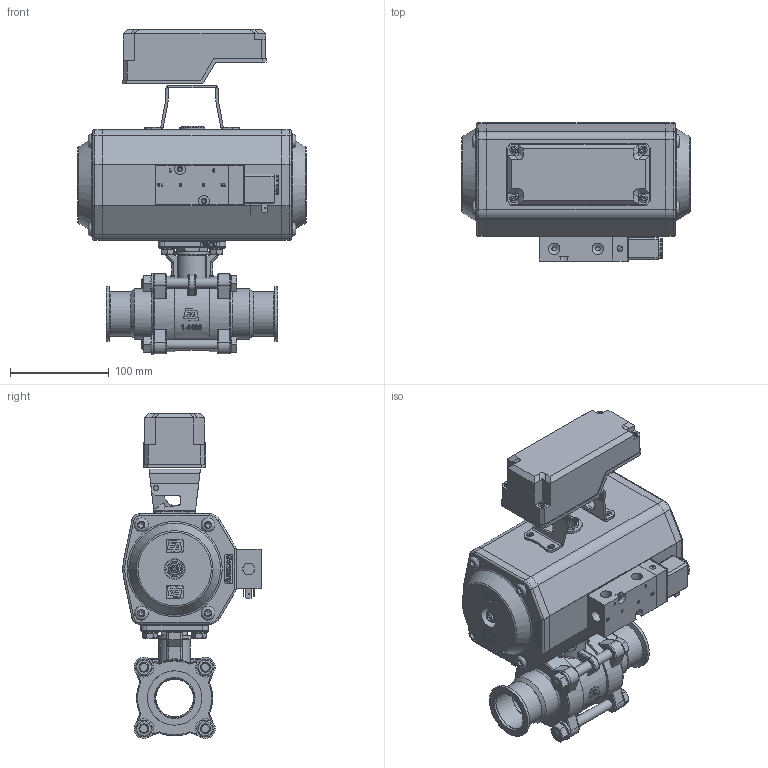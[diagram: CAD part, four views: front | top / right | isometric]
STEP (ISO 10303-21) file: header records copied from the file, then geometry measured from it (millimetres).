
FILE_DESCRIPTION( ( 'Unknown' ), '1' );
FILE_NAME( 'X:/Daten ( aktueller Bestand )/Projekte und Zeichnungen/Solid Edge/STP-Dateien/Kugelhahn, handbetätigt, pneu/413642.stp', 'Unknown', ( 'Unknown' ), ( 'Unknown' ), 'PSStep 14.0', 'Unknown', ' ' );
FILE_SCHEMA( ( 'AUTOMOTIVE_DESIGN { 1 0 10303 214 1 1 1 1 }' ) );
Length unit declared in the file: millimetre
Products named in the file (27): ED620852-KUNDEN; EDG85; EDD85-KUNDEN; EDR85-KUNDEN; DIN 125-1  A A 8.4; DIN 913  (Regelgewinde) M8 x 40; EDS0260_01_0013; DIN 471  _ 9mm _= 300mm 16 x 1; DIN EN 24 032  (Regelgewinde) M8_1; ISO 7380  (Regelgewinde) M8 x 25; Endlagenschalter; DECKEL-RE080303; KONSOL-RE080303; ISO 7380  (Regelgewinde) M5 x 10; Steuervemtil; AN621X07-GEH_US; DIN EN ISO 7046-1  H  (Regelgewinde) M5 x 6 - 4.8 - H; AMS00001X; AMD00001X; Assem1; DIN 125-1  A A 10.5; DIN EN 24 032  (Regelgewinde) M10_2; ISO 4014  (Regelgewinde) M10 x 90; DIN 125-1  A A 8.4-1; ISO 4017 -  M10 x 85 M8 x 16; ZA310066; 1526
Assembly tree (59 placements, depth 3):
  Assem1
    DIN 125-1  A A 10.5  x4
    DIN EN 24 032  (Regelgewinde) M10_2  x4
    ISO 4014  (Regelgewinde) M10 x 90  x4
    DIN 125-1  A A 8.4-1  x4
    ISO 4017 -  M10 x 85 M8 x 16  x4
    ZA310066
    1526  x2
    ED620852-KUNDEN
      EDG85
      EDD85-KUNDEN  x2
      EDR85-KUNDEN
      DIN 125-1  A A 8.4  x2
      DIN 913  (Regelgewinde) M8 x 40  x2
      EDS0260_01_0013
      DIN 471  _ 9mm _= 300mm 16 x 1
      DIN EN 24 032  (Regelgewinde) M8_1  x2
      ISO 7380  (Regelgewinde) M8 x 25  x8
    Endlagenschalter
      DECKEL-RE080303
      KONSOL-RE080303
      ISO 7380  (Regelgewinde) M5 x 10  x4
    Steuervemtil
      AN621X07-GEH_US
      DIN EN ISO 7046-1  H  (Regelgewinde) M5 x 6 - 4.8 - H  x4
      AMS00001X
      AMD00001X
Bounding box: 231 x 139.88 x 329.11 mm (x, y, z)
Volume: 2075909.3 mm3; surface area: 437934.3 mm2
Topology: 56 solids, 56 shells, 2559 faces, 6528 edges, 4226 vertices
Faces by surface type: plane 1247, cylinder 536, extrusion 263, cone 231, bspline 172, torus 106, sphere 4
Full cylindrical faces by diameter (mm): 1.5 x4, 1.7 x2, 2.459 x1, 3.9 x1, 4 x3, 4.134 x14, 4.509 x4, 4.917 x4, 5 x9, 5.5 x4, 5.9 x1, 6 x5, 6.647 x25, 6.8 x1, 7 x3, 8 x18, 8.376 x4, 8.4 x6, 9.3 x4, 9.5 x4, 10 x4, 10.5 x13, 11.445 x4, 11.63 x4, 12 x1, 14 x8, 14.63 x4, 16 x6, 18 x2, 20 x8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
Entity records: 92970 total; most frequent: CARTESIAN_POINT 34831, ORIENTED_EDGE 9204, DIRECTION 7371, EDGE_CURVE 4602, VERTEX_POINT 3118, VECTOR 2721, LINE 2521, AXIS2_PLACEMENT_3D 2325
